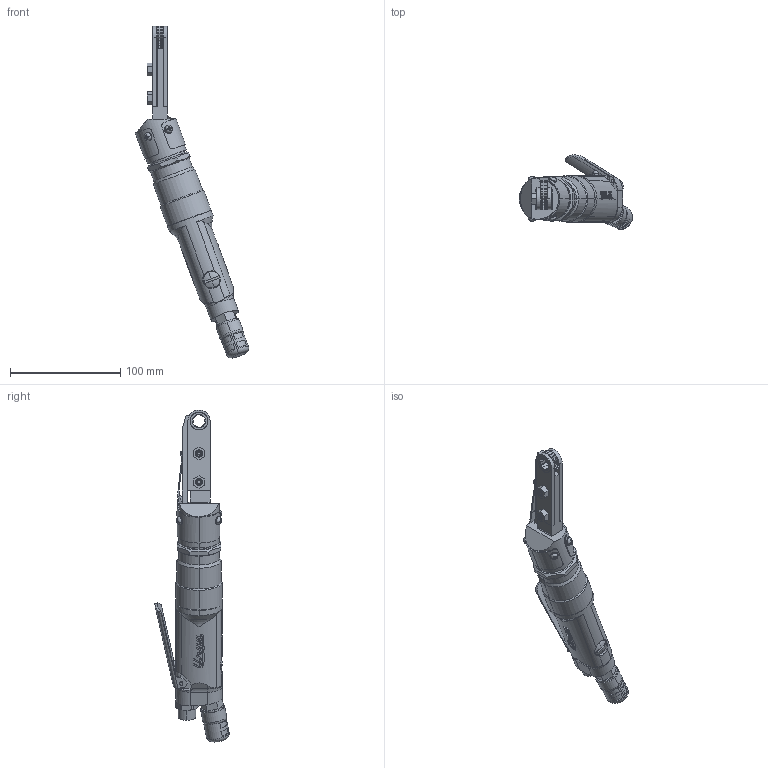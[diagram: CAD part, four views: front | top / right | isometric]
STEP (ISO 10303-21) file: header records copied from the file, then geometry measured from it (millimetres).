
FILE_DESCRIPTION (( 'STEP AP203' ), '1' );
FILE_NAME ('URW-60.STEP', '2006-02-14T07:39:03', ( '' ), ( '' ), 'SwSTEP 2.0', 'SolidWorks 2004073', '' );
FILE_SCHEMA (( 'CONFIG_CONTROL_DESIGN' ));
Length unit declared in the file: millimetre
Products named in the file (7): 2006565_蹬怮椔; URW-60; 2003818_蹬怮椔; 2000295_蹬怮椔; 2000258_蹬怮椔; 9703210_蹬怮椔; 4381073_蹬怮椔
Assembly tree (6 placements, depth 2):
  URW-60
    2003818_蹬怮椔
    9703210_蹬怮椔
    2000295_蹬怮椔
    2006565_蹬怮椔
    2000258_蹬怮椔
    4381073_蹬怮椔
Bounding box: 102.59 x 67.31 x 300.47 mm (x, y, z)
Volume: 256911 mm3; surface area: 50932 mm2
Topology: 6 solids, 6 shells, 733 faces, 1967 edges, 1274 vertices
Faces by surface type: plane 370, cylinder 238, cone 47, bspline 47, torus 25, sphere 6
Entity records: 28535 total; most frequent: CARTESIAN_POINT 10303, ORIENTED_EDGE 3924, DIRECTION 3301, EDGE_CURVE 1962, VERTEX_POINT 1274, AXIS2_PLACEMENT_3D 1158, VECTOR 985, LINE 985
